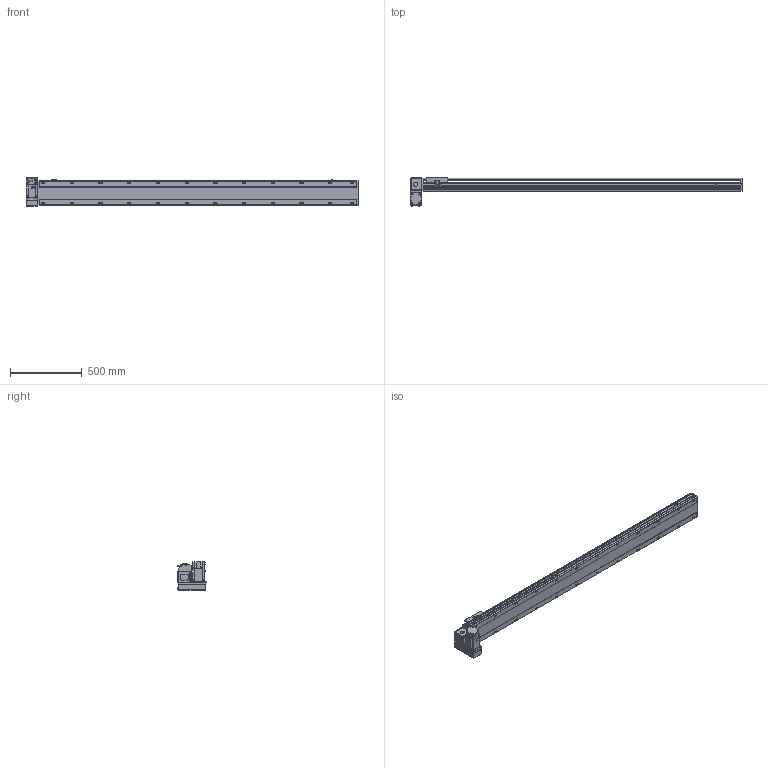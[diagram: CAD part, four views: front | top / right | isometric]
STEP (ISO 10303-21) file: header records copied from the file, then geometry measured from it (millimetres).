
FILE_DESCRIPTION( ( 'STEP AP214' ), '1' );
FILE_NAME( 'x:/temp/worker_3/temp/exporttempdir_5412_24_0X31F/format_0/PBS170-P40-S1950-LD-T75-C1-N(0).stp', '2022-06-07T07:54:46', ( 'License CC BY-ND 4.0' ), ( 'CADENAS' ), ' ', 'PARTsolutions', ' ' );
FILE_SCHEMA( ( 'AUTOMOTIVE_DESIGN { 1 0 10303 214 1 1 1 1 }' ) );
Length unit declared in the file: millimetre
Products named in the file (7): PBS170-P40-S1950-LD-T75-C1-N(0); _PBS170-S1950()_body; _PBS170T-LD_motors; _T75-p1; _PBS170_sliser; _PBS170_plant; _PBS170_sensor
Assembly tree (8 placements, depth 2):
  PBS170-P40-S1950-LD-T75-C1-N(0)
    _PBS170-S1950()_body
    _PBS170T-LD_motors
    _T75-p1
    _PBS170_sliser
    _PBS170_plant
    _PBS170_sensor  x3
Bounding box: 2313 x 201 x 197.3 mm (x, y, z)
Volume: 17760039.4 mm3; surface area: 2256627.2 mm2
Topology: 8 solids, 8 shells, 1146 faces, 3035 edges, 1978 vertices
Faces by surface type: plane 711, cylinder 371, cone 54, sphere 8, torus 2
Full cylindrical faces by diameter (mm): 3.242 x4, 4 x2, 4.4 x4, 4.5 x6, 4.917 x4, 6 x9, 6.647 x32, 7 x2, 7.5 x4, 8 x8, 8.5 x24, 10 x4, 10.5 x24, 11 x2, 30 x2, 40 x1, 70 x1
Entity records: 42308 total; most frequent: CARTESIAN_POINT 6893, DIRECTION 5580, ORIENTED_EDGE 5268, EDGE_CURVE 2634, AXIS2_PLACEMENT_3D 1957, VERTEX_POINT 1826, LINE 1666, VECTOR 1666
